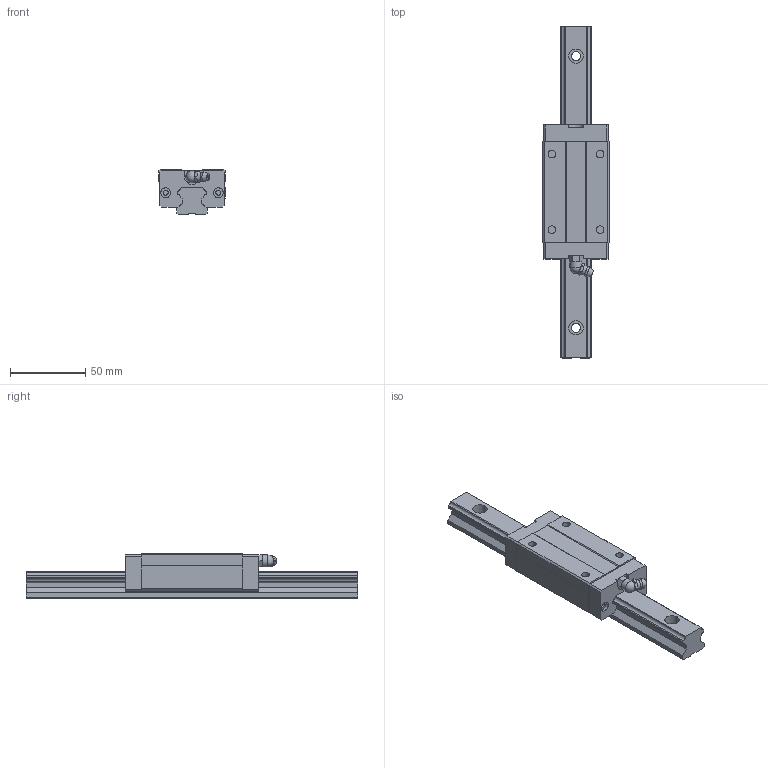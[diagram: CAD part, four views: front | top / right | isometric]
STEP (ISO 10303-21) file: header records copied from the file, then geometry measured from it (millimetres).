
FILE_DESCRIPTION(/* description */ (''),/* implementation_level */ '2;1');
FILE_NAME(/* name */ 'MSA20LS',/* time_stamp */ '2003-12-29T10:25:11+08:00',/* author */ (''),/* organization */ (''),/* preprocessor_version */ 'ST-DEVELOPER v9',/* originating_system */ '',/* authorisation */ '');
FILE_SCHEMA (('CONFIG_CONTROL_DESIGN'));
Length unit declared in the file: millimetre
Products named in the file (1): zirc5932mw7g
Bounding box: 44 x 220 x 30 mm (x, y, z)
Volume: 138334.3 mm3; surface area: 37179.6 mm2
Topology: 3 solids, 3 shells, 177 faces, 453 edges, 294 vertices
Faces by surface type: plane 135, cylinder 31, torus 7, sphere 2, cone 1, bspline 1
Full cylindrical faces by diameter (mm): 3.25 x4, 5 x4, 6 x4, 6.5 x4, 8 x1, 9.5 x4
Entity records: 5389 total; most frequent: CARTESIAN_POINT 1060, DIRECTION 860, ORIENTED_EDGE 850, EDGE_CURVE 425, LINE 308, VECTOR 308, VERTEX_POINT 292, AXIS2_PLACEMENT_3D 276
